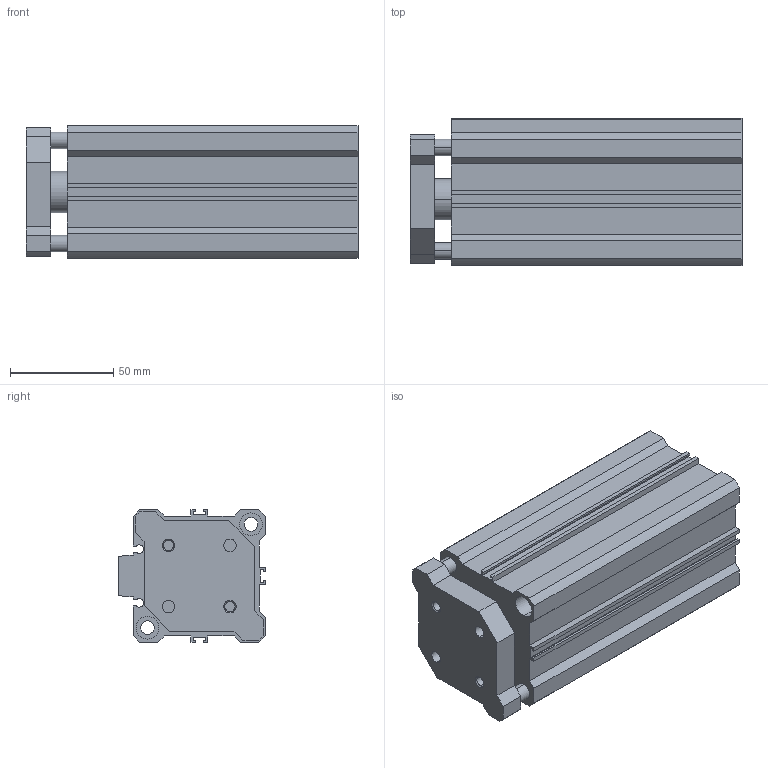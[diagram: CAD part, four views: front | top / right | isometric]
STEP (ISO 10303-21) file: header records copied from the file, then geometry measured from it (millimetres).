
FILE_DESCRIPTION (( 'STEP AP203' ), '1' );
FILE_NAME ('CCMG50-100.STEP', '2020-04-01T18:48:30', ( '' ), ( '' ), 'SwSTEP 2.0', 'SolidWorks 2019', '' );
FILE_SCHEMA (( 'CONFIG_CONTROL_DESIGN' ));
Length unit declared in the file: millimetre
Products named in the file (1): CCMG50-100
Bounding box: 160.5 x 71 x 64 mm (x, y, z)
Volume: 403495.6 mm3; surface area: 116262.5 mm2
Topology: 2 solids, 2 shells, 162 faces, 422 edges, 274 vertices
Faces by surface type: plane 92, cylinder 54, cone 16
Entity records: 5029 total; most frequent: DIRECTION 864, CARTESIAN_POINT 855, ORIENTED_EDGE 836, EDGE_CURVE 418, LINE 298, VECTOR 298, AXIS2_PLACEMENT_3D 283, VERTEX_POINT 274
